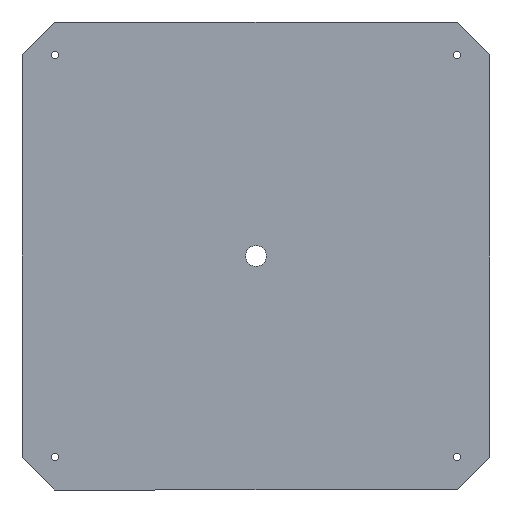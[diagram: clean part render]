
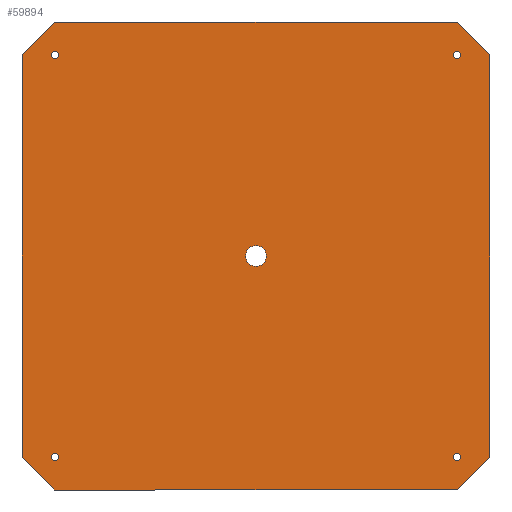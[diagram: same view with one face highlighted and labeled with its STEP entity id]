
A CAD part, front view. The second image highlights one B-rep face of the part: STEP entity #59894.
In plain terms, the highlighted planar face has unit normal (0, -1, 0).
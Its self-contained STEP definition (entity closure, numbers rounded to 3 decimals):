
#142 = CARTESIAN_POINT ( 'NONE',  ( -142., 0., -122. ) ) ;
#2259 = VECTOR ( 'NONE', #55824, 1000. ) ;
#3195 = VERTEX_POINT ( 'NONE', #23616 ) ;
#3857 = CARTESIAN_POINT ( 'NONE',  ( 122., 0., -119.75 ) ) ;
#4954 = CARTESIAN_POINT ( 'NONE',  ( 122., 0., -122. ) ) ;
#5167 = EDGE_LOOP ( 'NONE', ( #9142 ) ) ;
#5503 = CARTESIAN_POINT ( 'NONE',  ( -122., 0., 122. ) ) ;
#6487 = VECTOR ( 'NONE', #31186, 1000. ) ;
#6595 = DIRECTION ( 'NONE',  ( 0., 0., 1. ) ) ;
#7378 = VERTEX_POINT ( 'NONE', #30218 ) ;
#9142 = ORIENTED_EDGE ( 'NONE', *, *, #64676, .T. ) ;
#9360 = VERTEX_POINT ( 'NONE', #103160 ) ;
#9947 = CIRCLE ( 'NONE', #86029, 2.25 ) ;
#10902 = VERTEX_POINT ( 'NONE', #101070 ) ;
#11159 = CARTESIAN_POINT ( 'NONE',  ( 0., 0., 0. ) ) ;
#12201 = CIRCLE ( 'NONE', #54424, 6.35 ) ;
#12324 = CARTESIAN_POINT ( 'NONE',  ( 0., 0., 6.35 ) ) ;
#15355 = VERTEX_POINT ( 'NONE', #47674 ) ;
#16019 = VECTOR ( 'NONE', #32541, 1000. ) ;
#18529 = LINE ( 'NONE', #58713, #95878 ) ;
#20123 = DIRECTION ( 'NONE',  ( -1., 0., 0. ) ) ;
#20346 = CARTESIAN_POINT ( 'NONE',  ( -142., 0., 142. ) ) ;
#20591 = CARTESIAN_POINT ( 'NONE',  ( -122., 0., 142. ) ) ;
#20659 = ORIENTED_EDGE ( 'NONE', *, *, #101832, .F. ) ;
#21058 = AXIS2_PLACEMENT_3D ( 'NONE', #4954, #29834, #29311 ) ;
#21556 = CARTESIAN_POINT ( 'NONE',  ( -122., 0., 142. ) ) ;
#22451 = DIRECTION ( 'NONE',  ( 0., 0., 1. ) ) ;
#22512 = FACE_BOUND ( 'NONE', #78358, .T. ) ;
#23616 = CARTESIAN_POINT ( 'NONE',  ( 142., 0., 122. ) ) ;
#25604 = DIRECTION ( 'NONE',  ( 0., 0., 1. ) ) ;
#26713 = EDGE_CURVE ( 'NONE', #10902, #86255, #72723, .T. ) ;
#27273 = VECTOR ( 'NONE', #35216, 1000. ) ;
#27351 = VECTOR ( 'NONE', #51154, 1000. ) ;
#29311 = DIRECTION ( 'NONE',  ( 0., 0., 1. ) ) ;
#29495 = LINE ( 'NONE', #21556, #71037 ) ;
#29834 = DIRECTION ( 'NONE',  ( 0., 1., 0. ) ) ;
#30218 = CARTESIAN_POINT ( 'NONE',  ( -122., 0., -119.75 ) ) ;
#31139 = DIRECTION ( 'NONE',  ( 0., 1., 0. ) ) ;
#31186 = DIRECTION ( 'NONE',  ( 0.707, 0., 0.707 ) ) ;
#31280 = VERTEX_POINT ( 'NONE', #12324 ) ;
#31608 = EDGE_CURVE ( 'NONE', #31280, #31280, #12201, .T. ) ;
#32532 = DIRECTION ( 'NONE',  ( 0., 1., 0. ) ) ;
#32541 = DIRECTION ( 'NONE',  ( 0.707, 0., -0.707 ) ) ;
#32820 = ORIENTED_EDGE ( 'NONE', *, *, #100609, .T. ) ;
#35216 = DIRECTION ( 'NONE',  ( 1., 0., 0. ) ) ;
#35599 = ORIENTED_EDGE ( 'NONE', *, *, #78318, .F. ) ;
#35662 = EDGE_LOOP ( 'NONE', ( #67117 ) ) ;
#36260 = CARTESIAN_POINT ( 'NONE',  ( 122., 0., 124.25 ) ) ;
#36982 = DIRECTION ( 'NONE',  ( -0.707, 0., -0.707 ) ) ;
#37408 = FACE_BOUND ( 'NONE', #81339, .T. ) ;
#39689 = AXIS2_PLACEMENT_3D ( 'NONE', #103065, #31139, #86712 ) ;
#41097 = LINE ( 'NONE', #81291, #2259 ) ;
#43518 = DIRECTION ( 'NONE',  ( 0., 1., 0. ) ) ;
#43809 = CARTESIAN_POINT ( 'NONE',  ( -142., 0., -142. ) ) ;
#43967 = CARTESIAN_POINT ( 'NONE',  ( -122., 0., -142. ) ) ;
#46267 = LINE ( 'NONE', #103349, #72327 ) ;
#46370 = FACE_BOUND ( 'NONE', #35662, .T. ) ;
#47674 = CARTESIAN_POINT ( 'NONE',  ( -122., 0., 124.25 ) ) ;
#49631 = AXIS2_PLACEMENT_3D ( 'NONE', #63223, #79142, #6595 ) ;
#50687 = ORIENTED_EDGE ( 'NONE', *, *, #76247, .T. ) ;
#51129 = EDGE_LOOP ( 'NONE', ( #102229 ) ) ;
#51154 = DIRECTION ( 'NONE',  ( 0., 0., 1. ) ) ;
#53140 = EDGE_CURVE ( 'NONE', #7378, #7378, #81908, .T. ) ;
#54424 = AXIS2_PLACEMENT_3D ( 'NONE', #11159, #43518, #75761 ) ;
#54734 = FACE_OUTER_BOUND ( 'NONE', #75355, .T. ) ;
#55824 = DIRECTION ( 'NONE',  ( -0.707, 0., 0.707 ) ) ;
#56996 = LINE ( 'NONE', #103640, #6487 ) ;
#58713 = CARTESIAN_POINT ( 'NONE',  ( 142., 0., -142. ) ) ;
#59894 = ADVANCED_FACE ( 'NONE', ( #46370, #61678, #37408, #88109, #22512, #54734 ), #103984, .F. ) ;
#61678 = FACE_BOUND ( 'NONE', #5167, .T. ) ;
#62436 = ORIENTED_EDGE ( 'NONE', *, *, #26713, .T. ) ;
#62621 = CARTESIAN_POINT ( 'NONE',  ( 122., 0., 142. ) ) ;
#63223 = CARTESIAN_POINT ( 'NONE',  ( 0., 0., 0. ) ) ;
#63627 = DIRECTION ( 'NONE',  ( 0., 0., -1. ) ) ;
#64645 = AXIS2_PLACEMENT_3D ( 'NONE', #5503, #94374, #22451 ) ;
#64676 = EDGE_CURVE ( 'NONE', #15355, #15355, #96761, .T. ) ;
#65435 = VERTEX_POINT ( 'NONE', #69708 ) ;
#66630 = CIRCLE ( 'NONE', #21058, 2.25 ) ;
#67117 = ORIENTED_EDGE ( 'NONE', *, *, #76534, .T. ) ;
#69708 = CARTESIAN_POINT ( 'NONE',  ( 142., 0., -122. ) ) ;
#69790 = ORIENTED_EDGE ( 'NONE', *, *, #73957, .F. ) ;
#71037 = VECTOR ( 'NONE', #36982, 1000. ) ;
#71284 = VERTEX_POINT ( 'NONE', #62621 ) ;
#72327 = VECTOR ( 'NONE', #63627, 1000. ) ;
#72723 = LINE ( 'NONE', #142, #16019 ) ;
#73957 = EDGE_CURVE ( 'NONE', #89815, #71284, #92826, .T. ) ;
#75355 = EDGE_LOOP ( 'NONE', ( #20659, #62436, #35599, #89972, #91129, #50687, #69790, #32820 ) ) ;
#75761 = DIRECTION ( 'NONE',  ( 0., 0., 1. ) ) ;
#76247 = EDGE_CURVE ( 'NONE', #3195, #71284, #41097, .T. ) ;
#76414 = VERTEX_POINT ( 'NONE', #3857 ) ;
#76534 = EDGE_CURVE ( 'NONE', #76414, #76414, #66630, .T. ) ;
#78318 = EDGE_CURVE ( 'NONE', #84253, #86255, #18529, .T. ) ;
#78358 = EDGE_LOOP ( 'NONE', ( #102962 ) ) ;
#79142 = DIRECTION ( 'NONE',  ( 0., 1., 0. ) ) ;
#81291 = CARTESIAN_POINT ( 'NONE',  ( 142., 0., 122. ) ) ;
#81339 = EDGE_LOOP ( 'NONE', ( #95810 ) ) ;
#81908 = CIRCLE ( 'NONE', #39689, 2.25 ) ;
#84253 = VERTEX_POINT ( 'NONE', #99024 ) ;
#86029 = AXIS2_PLACEMENT_3D ( 'NONE', #97520, #32532, #25604 ) ;
#86255 = VERTEX_POINT ( 'NONE', #43967 ) ;
#86513 = EDGE_CURVE ( 'NONE', #102673, #102673, #9947, .T. ) ;
#86712 = DIRECTION ( 'NONE',  ( 0., 0., 1. ) ) ;
#88109 = FACE_BOUND ( 'NONE', #51129, .T. ) ;
#89815 = VERTEX_POINT ( 'NONE', #20591 ) ;
#89972 = ORIENTED_EDGE ( 'NONE', *, *, #99001, .T. ) ;
#91129 = ORIENTED_EDGE ( 'NONE', *, *, #98485, .F. ) ;
#92826 = LINE ( 'NONE', #20346, #27273 ) ;
#94374 = DIRECTION ( 'NONE',  ( 0., 1., 0. ) ) ;
#95810 = ORIENTED_EDGE ( 'NONE', *, *, #86513, .T. ) ;
#95878 = VECTOR ( 'NONE', #20123, 1000. ) ;
#96761 = CIRCLE ( 'NONE', #64645, 2.25 ) ;
#97520 = CARTESIAN_POINT ( 'NONE',  ( 122., 0., 122. ) ) ;
#98485 = EDGE_CURVE ( 'NONE', #3195, #65435, #46267, .T. ) ;
#98782 = LINE ( 'NONE', #43809, #27351 ) ;
#99001 = EDGE_CURVE ( 'NONE', #84253, #65435, #56996, .T. ) ;
#99024 = CARTESIAN_POINT ( 'NONE',  ( 122., 0., -142. ) ) ;
#100609 = EDGE_CURVE ( 'NONE', #89815, #9360, #29495, .T. ) ;
#101070 = CARTESIAN_POINT ( 'NONE',  ( -142., 0., -122. ) ) ;
#101832 = EDGE_CURVE ( 'NONE', #10902, #9360, #98782, .T. ) ;
#102229 = ORIENTED_EDGE ( 'NONE', *, *, #53140, .T. ) ;
#102673 = VERTEX_POINT ( 'NONE', #36260 ) ;
#102962 = ORIENTED_EDGE ( 'NONE', *, *, #31608, .T. ) ;
#103065 = CARTESIAN_POINT ( 'NONE',  ( -122., 0., -122. ) ) ;
#103160 = CARTESIAN_POINT ( 'NONE',  ( -142., 0., 122. ) ) ;
#103349 = CARTESIAN_POINT ( 'NONE',  ( 142., 0., 142. ) ) ;
#103640 = CARTESIAN_POINT ( 'NONE',  ( 122., 0., -142. ) ) ;
#103984 = PLANE ( 'NONE',  #49631 ) ;
